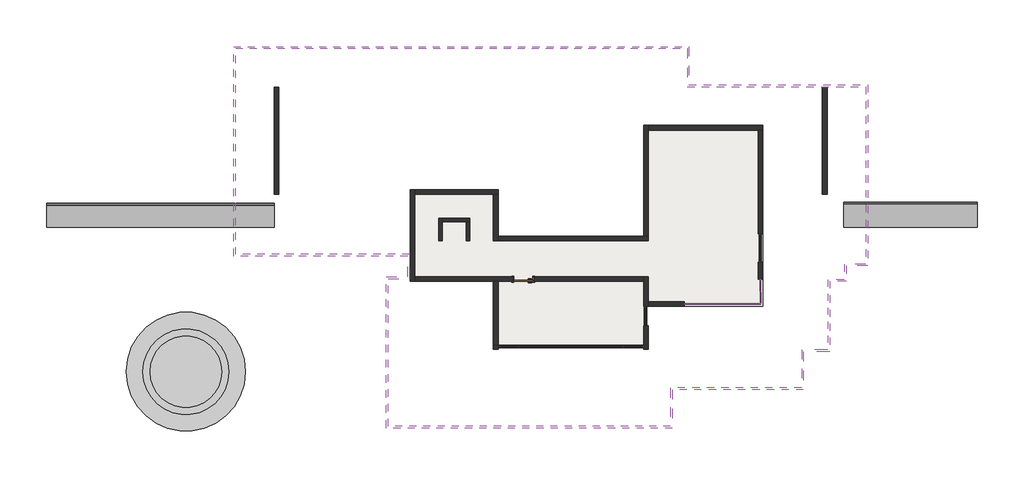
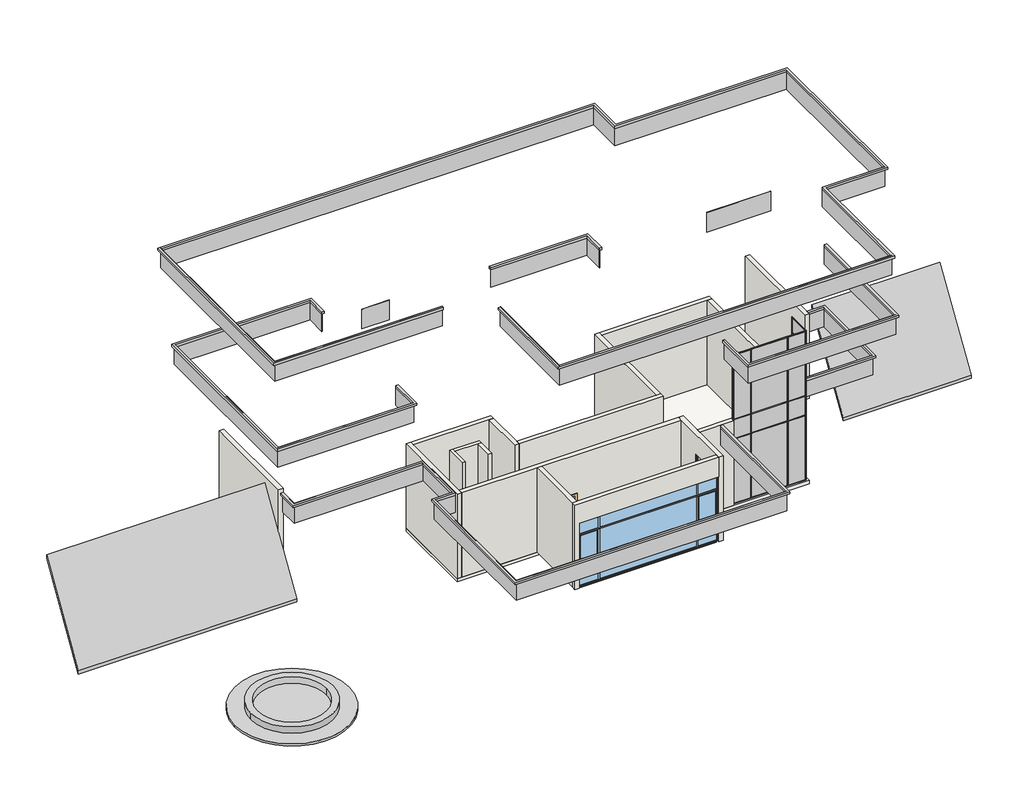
# One storey: 44 members, 17 walls, 16 plates, 4 proxies, 3 windows, 1 door, 1 slab.
"""IFC4 building model written with IfcOpenShell, lengths in millimetres."""

from ifc_helpers import new_model, si_unit, frame, origin, place, context, project, spatial, polyline, outline, extrude, faceted_brep, transform, mapped, element, save
from components import generic_models_e143e167, generic_models_15ee8ed9, generic_models_2893cd3e, generic_models_50eb2f88, m0921_482f5408, member_90ac73ab, member_87f0dc7e, member_97db42b5, member_9cf9c4d7, member_69e691f9, member_5c1dec61, member_050b8304, member_a1c97f35, member_0acd70fe, member_002d80ed, member_364816fe, member_2ac2b3c5, member_9c23d585, member_4cd86211, plate_54aeb3eb, plate_5ff895a2, plate_2453c80b, plate_7ff01385, plate_ce25694f, plate_528bf638, plate_018ef02b, plate_538d52de, plate_7eeac649, plate_8182eb90, plate_c530ab51, plate_f8d70057, c0830_0c11c58e, c1230_67e573e4, c6130_3f99a6ba

model = new_model("IFC4")

# Units and contexts
model_context = context("Model", 3, world=origin())
ifc_project = project(units=[si_unit("LENGTHUNIT", "METRE", prefix="MILLI")], contexts=[model_context])

# Site, building, storey
site = spatial("IfcSite", under=ifc_project)
building = spatial("IfcBuilding", under=site)
storey = spatial("IfcBuildingStorey", under=building, Name="负一层", Elevation=-3900.0)

# Proxies
placement = place(None, origin())
generic_models_shape = generic_models_e143e167(model_context)
element("IfcBuildingElementProxy", 1, Name="常规模型 1 : 常规模型 1", ObjectType="常规模型 1 : 常规模型 1", at=placement, inside=storey, context=model_context, shape_type="MappedRepresentation", body=[
    mapped(generic_models_shape, transform((0.0, 0.0, 0.0), x_axis=(1.0, 0.0, 0.0), y_axis=(0.0, 1.0, 0.0), z_axis=(0.0, 0.0, 1.0))),
])
generic_models_2_shape = generic_models_15ee8ed9(model_context)
element("IfcBuildingElementProxy", 2, Name="常规模型 2 : 常规模型 1", ObjectType="常规模型 2 : 常规模型 1", at=placement, inside=storey, context=model_context, shape_type="MappedRepresentation", body=[
    mapped(generic_models_2_shape, transform((0.0, 0.0, 0.0), x_axis=(1.0, 0.0, 0.0), y_axis=(0.0, 1.0, 0.0), z_axis=(0.0, 0.0, 1.0))),
])
generic_models_3_shape = generic_models_2893cd3e(model_context)
element("IfcBuildingElementProxy", 3, Name="景观水池 : 景观水池", ObjectType="景观水池 : 景观水池", at=placement, inside=storey, context=model_context, shape_type="MappedRepresentation", body=[
    mapped(generic_models_3_shape, transform((0.0, 0.0, 0.0), x_axis=(1.0, 0.0, 0.0), y_axis=(0.0, 1.0, 0.0), z_axis=(0.0, 0.0, 1.0))),
])
generic_models_4_shape = generic_models_50eb2f88(model_context)
element("IfcBuildingElementProxy", 4, Name="常规模型 3 : 常规模型 3", ObjectType="常规模型 3 : 常规模型 3", at=placement, inside=storey, context=model_context, shape_type="MappedRepresentation", body=[
    mapped(generic_models_4_shape, transform((0.0, 0.0, 0.0), x_axis=(1.0, 0.0, 0.0), y_axis=(0.0, 1.0, 0.0), z_axis=(0.0, 0.0, 1.0))),
])

# Door
m0921_shape = m0921_482f5408(model_context)
element("IfcDoor", 5, ObjectType="单嵌板木门 1 : M0921", at=placement, inside=storey, context=model_context, shape_type="MappedRepresentation", body=[
    mapped(m0921_shape, transform((2359.0524305, -6971.4172231, -3900.0), x_axis=(-1.0, 0.0, 0.0), y_axis=(0.0, -1.0, 0.0), z_axis=(0.0, 0.0, 1.0))),
])

# Members
member_shape = member_90ac73ab(model_context)
element("IfcMember", 6, ObjectType="矩形竖梃 : 30mm 正方形", at=placement, inside=storey, context=model_context, shape_type="MappedRepresentation", body=[
    mapped(member_shape, transform((12279.0524305, -8021.4172231, 3000.0), x_axis=(0.0, 0.0, 1.0), y_axis=(0.0, -1.0, 0.0), z_axis=(1.0, 0.0, 0.0))),
])
element("IfcMember", 7, ObjectType="矩形竖梃 : 30mm 正方形", at=placement, inside=storey, context=model_context, shape_type="MappedRepresentation", body=[
    mapped(member_shape, transform((9894.0524305, -8021.4172231, 3000.0), x_axis=(0.0, 0.0, 1.0), y_axis=(0.0, -1.0, 0.0), z_axis=(1.0, 0.0, 0.0))),
])
member_2_shape = member_87f0dc7e(model_context)
element("IfcMember", 8, ObjectType="矩形竖梃 : 30mm 正方形", at=placement, inside=storey, context=model_context, shape_type="MappedRepresentation", body=[
    mapped(member_2_shape, transform((11494.0524305, -8021.4172231, 3000.0), x_axis=(0.0, 0.0, 1.0), y_axis=(0.0, -1.0, 0.0), z_axis=(1.0, 0.0, 0.0))),
])
element("IfcMember", 9, ObjectType="矩形竖梃 : 30mm 正方形", at=placement, inside=storey, context=model_context, shape_type="MappedRepresentation", body=[
    mapped(member_shape, transform((9139.0524305, -8021.4172231, -3900.0), x_axis=(0.0, 0.0, -1.0), y_axis=(0.0, -1.0, 0.0), z_axis=(-1.0, 0.0, 0.0))),
])
element("IfcMember", 10, ObjectType="矩形竖梃 : 30mm 正方形", at=placement, inside=storey, context=model_context, shape_type="MappedRepresentation", body=[
    mapped(member_shape, transform((11524.0524305, -8021.4172231, -3900.0), x_axis=(0.0, 0.0, -1.0), y_axis=(0.0, -1.0, 0.0), z_axis=(-1.0, 0.0, 0.0))),
])
element("IfcMember", 11, ObjectType="矩形竖梃 : 30mm 正方形", at=placement, inside=storey, context=model_context, shape_type="MappedRepresentation", body=[
    mapped(member_2_shape, transform((9924.0524305, -8021.4172231, -3900.0), x_axis=(0.0, 0.0, -1.0), y_axis=(0.0, -1.0, 0.0), z_axis=(-1.0, 0.0, 0.0))),
])
member_3_shape = member_97db42b5(model_context)
element("IfcMember", 12, ObjectType="矩形竖梃 : 30mm 正方形", at=placement, inside=storey, context=model_context, shape_type="MappedRepresentation", body=[
    mapped(member_3_shape, transform((9894.0524305, -8021.4172231, -900.0), x_axis=(0.0, 0.0, 1.0), y_axis=(0.0, -1.0, 0.0), z_axis=(1.0, 0.0, 0.0))),
])
element("IfcMember", 13, ObjectType="矩形竖梃 : 30mm 正方形", at=placement, inside=storey, context=model_context, shape_type="MappedRepresentation", body=[
    mapped(member_3_shape, transform((9894.0524305, -8021.4172231, 0.0), x_axis=(0.0, 0.0, 1.0), y_axis=(0.0, -1.0, 0.0), z_axis=(1.0, 0.0, 0.0))),
])
element("IfcMember", 14, ObjectType="矩形竖梃 : 30mm 正方形", at=placement, inside=storey, context=model_context, shape_type="MappedRepresentation", body=[
    mapped(member_3_shape, transform((9894.0524305, -8021.4172231, 2300.0), x_axis=(0.0, 0.0, 1.0), y_axis=(0.0, -1.0, 0.0), z_axis=(1.0, 0.0, 0.0))),
])
element("IfcMember", 15, ObjectType="矩形竖梃 : 30mm 正方形", at=placement, inside=storey, context=model_context, shape_type="MappedRepresentation", body=[
    mapped(member_3_shape, transform((12279.0524305, -8021.4172231, -900.0), x_axis=(0.0, 0.0, 1.0), y_axis=(0.0, -1.0, 0.0), z_axis=(1.0, 0.0, 0.0))),
])
element("IfcMember", 16, ObjectType="矩形竖梃 : 30mm 正方形", at=placement, inside=storey, context=model_context, shape_type="MappedRepresentation", body=[
    mapped(member_3_shape, transform((12279.0524305, -8021.4172231, 0.0), x_axis=(0.0, 0.0, 1.0), y_axis=(0.0, -1.0, 0.0), z_axis=(1.0, 0.0, 0.0))),
])
element("IfcMember", 17, ObjectType="矩形竖梃 : 30mm 正方形", at=placement, inside=storey, context=model_context, shape_type="MappedRepresentation", body=[
    mapped(member_3_shape, transform((12279.0524305, -8021.4172231, 2300.0), x_axis=(0.0, 0.0, 1.0), y_axis=(0.0, -1.0, 0.0), z_axis=(1.0, 0.0, 0.0))),
])
member_4_shape = member_9cf9c4d7(model_context)
element("IfcMember", 18, ObjectType="矩形竖梃 : 30mm 正方形", at=placement, inside=storey, context=model_context, shape_type="MappedRepresentation", body=[
    mapped(member_4_shape, transform((11494.0524305, -8021.4172231, -900.0), x_axis=(0.0, 0.0, 1.0), y_axis=(0.0, -1.0, 0.0), z_axis=(1.0, 0.0, 0.0))),
])
element("IfcMember", 19, ObjectType="矩形竖梃 : 30mm 正方形", at=placement, inside=storey, context=model_context, shape_type="MappedRepresentation", body=[
    mapped(member_4_shape, transform((11494.0524305, -8021.4172231, 0.0), x_axis=(0.0, 0.0, 1.0), y_axis=(0.0, -1.0, 0.0), z_axis=(1.0, 0.0, 0.0))),
])
element("IfcMember", 20, ObjectType="矩形竖梃 : 30mm 正方形", at=placement, inside=storey, context=model_context, shape_type="MappedRepresentation", body=[
    mapped(member_4_shape, transform((11494.0524305, -8021.4172231, 2300.0), x_axis=(0.0, 0.0, 1.0), y_axis=(0.0, -1.0, 0.0), z_axis=(1.0, 0.0, 0.0))),
])
member_5_shape = member_69e691f9(model_context)
element("IfcMember", 21, ObjectType="矩形竖梃 : 30mm 正方形", at=placement, inside=storey, context=model_context, shape_type="MappedRepresentation", body=[
    mapped(member_5_shape, transform((9909.0524305, -8021.4172231, -3900.0), x_axis=(1.0, 0.0, 0.0), y_axis=(0.0, -1.0, 0.0), z_axis=(0.0, 0.0, -1.0))),
])
element("IfcMember", 22, ObjectType="矩形竖梃 : 30mm 正方形", at=placement, inside=storey, context=model_context, shape_type="MappedRepresentation", body=[
    mapped(member_5_shape, transform((11509.0524305, -8021.4172231, -3900.0), x_axis=(1.0, 0.0, 0.0), y_axis=(0.0, -1.0, 0.0), z_axis=(0.0, 0.0, -1.0))),
])
member_6_shape = member_5c1dec61(model_context)
element("IfcMember", 23, ObjectType="矩形竖梃 : 30mm 正方形", at=placement, inside=storey, context=model_context, shape_type="MappedRepresentation", body=[
    mapped(member_6_shape, transform((9909.0524305, -8021.4172231, -900.0), x_axis=(1.0, 0.0, 0.0), y_axis=(0.0, -1.0, 0.0), z_axis=(0.0, 0.0, -1.0))),
])
element("IfcMember", 24, ObjectType="矩形竖梃 : 30mm 正方形", at=placement, inside=storey, context=model_context, shape_type="MappedRepresentation", body=[
    mapped(member_6_shape, transform((11509.0524305, -8021.4172231, -900.0), x_axis=(1.0, 0.0, 0.0), y_axis=(0.0, -1.0, 0.0), z_axis=(0.0, 0.0, -1.0))),
])
member_7_shape = member_050b8304(model_context)
element("IfcMember", 25, ObjectType="矩形竖梃 : 30mm 正方形", at=placement, inside=storey, context=model_context, shape_type="MappedRepresentation", body=[
    mapped(member_7_shape, transform((9909.0524305, -8021.4172231, 0.0), x_axis=(1.0, 0.0, 0.0), y_axis=(0.0, -1.0, 0.0), z_axis=(0.0, 0.0, -1.0))),
])
element("IfcMember", 26, ObjectType="矩形竖梃 : 30mm 正方形", at=placement, inside=storey, context=model_context, shape_type="MappedRepresentation", body=[
    mapped(member_7_shape, transform((11509.0524305, -8021.4172231, 0.0), x_axis=(1.0, 0.0, 0.0), y_axis=(0.0, -1.0, 0.0), z_axis=(0.0, 0.0, -1.0))),
])
member_8_shape = member_a1c97f35(model_context)
element("IfcMember", 27, ObjectType="矩形竖梃 : 30mm 正方形", at=placement, inside=storey, context=model_context, shape_type="MappedRepresentation", body=[
    mapped(member_8_shape, transform((9909.0524305, -8021.4172231, 2300.0), x_axis=(1.0, 0.0, 0.0), y_axis=(0.0, -1.0, 0.0), z_axis=(0.0, 0.0, -1.0))),
])
element("IfcMember", 28, ObjectType="矩形竖梃 : 30mm 正方形", at=placement, inside=storey, context=model_context, shape_type="MappedRepresentation", body=[
    mapped(member_8_shape, transform((11509.0524305, -8021.4172231, 2300.0), x_axis=(1.0, 0.0, 0.0), y_axis=(0.0, -1.0, 0.0), z_axis=(0.0, 0.0, -1.0))),
])
member_9_shape = member_0acd70fe(model_context)
element("IfcMember", 29, ObjectType="矩形竖梃 : 30mm 正方形", at=placement, inside=storey, context=model_context, shape_type="MappedRepresentation", body=[
    mapped(member_9_shape, transform((12309.0524305, -8021.4172231, -3900.0), x_axis=(1.0, 0.0, 0.0), y_axis=(0.0, -1.0, 0.0), z_axis=(0.0, 0.0, -1.0))),
])
element("IfcMember", 30, ObjectType="矩形竖梃 : 30mm 正方形", at=placement, inside=storey, context=model_context, shape_type="MappedRepresentation", body=[
    mapped(member_9_shape, transform((12309.0524305, -6971.4172231, -3900.0), x_axis=(0.0, 1.0, 0.0), y_axis=(1.0, 0.0, 0.0), z_axis=(0.0, 0.0, -1.0))),
])
member_10_shape = member_002d80ed(model_context)
element("IfcMember", 31, ObjectType="矩形竖梃 : 30mm 正方形", at=placement, inside=storey, context=model_context, shape_type="MappedRepresentation", body=[
    mapped(member_10_shape, transform((12309.0524305, -8021.4172231, -900.0), x_axis=(1.0, 0.0, 0.0), y_axis=(0.0, -1.0, 0.0), z_axis=(0.0, 0.0, -1.0))),
])
element("IfcMember", 32, ObjectType="矩形竖梃 : 30mm 正方形", at=placement, inside=storey, context=model_context, shape_type="MappedRepresentation", body=[
    mapped(member_10_shape, transform((12309.0524305, -6971.4172231, -900.0), x_axis=(0.0, 1.0, 0.0), y_axis=(1.0, 0.0, 0.0), z_axis=(0.0, 0.0, -1.0))),
])
member_11_shape = member_364816fe(model_context)
element("IfcMember", 33, ObjectType="矩形竖梃 : 30mm 正方形", at=placement, inside=storey, context=model_context, shape_type="MappedRepresentation", body=[
    mapped(member_11_shape, transform((12309.0524305, -8021.4172231, 0.0), x_axis=(1.0, 0.0, 0.0), y_axis=(0.0, -1.0, 0.0), z_axis=(0.0, 0.0, -1.0))),
])
element("IfcMember", 34, ObjectType="矩形竖梃 : 30mm 正方形", at=placement, inside=storey, context=model_context, shape_type="MappedRepresentation", body=[
    mapped(member_11_shape, transform((12309.0524305, -6971.4172231, 0.0), x_axis=(0.0, 1.0, 0.0), y_axis=(1.0, 0.0, 0.0), z_axis=(0.0, 0.0, -1.0))),
])
member_12_shape = member_2ac2b3c5(model_context)
element("IfcMember", 35, ObjectType="矩形竖梃 : 30mm 正方形", at=placement, inside=storey, context=model_context, shape_type="MappedRepresentation", body=[
    mapped(member_12_shape, transform((12309.0524305, -8021.4172231, 2300.0), x_axis=(1.0, 0.0, 0.0), y_axis=(0.0, -1.0, 0.0), z_axis=(0.0, 0.0, -1.0))),
])
element("IfcMember", 36, ObjectType="矩形竖梃 : 30mm 正方形", at=placement, inside=storey, context=model_context, shape_type="MappedRepresentation", body=[
    mapped(member_12_shape, transform((12309.0524305, -6971.4172231, 2300.0), x_axis=(0.0, 1.0, 0.0), y_axis=(1.0, 0.0, 0.0), z_axis=(0.0, 0.0, -1.0))),
])
element("IfcMember", 37, ObjectType="矩形竖梃 : 30mm 正方形", at=placement, inside=storey, context=model_context, shape_type="MappedRepresentation", body=[
    mapped(member_12_shape, transform((9109.0524305, -8021.4172231, 3000.0), x_axis=(-1.0, 0.0, 0.0), y_axis=(0.0, -1.0, 0.0), z_axis=(0.0, 0.0, 1.0))),
])
element("IfcMember", 38, ObjectType="矩形竖梃 : 30mm 正方形", at=placement, inside=storey, context=model_context, shape_type="MappedRepresentation", body=[
    mapped(member_12_shape, transform((12309.0524305, -8021.4172231, 3000.0), x_axis=(0.0, -1.0, 0.0), y_axis=(1.0, 0.0, 0.0), z_axis=(0.0, 0.0, 1.0))),
])
element("IfcMember", 39, ObjectType="矩形竖梃 : 30mm 正方形", at=placement, inside=storey, context=model_context, shape_type="MappedRepresentation", body=[
    mapped(member_9_shape, transform((9109.0524305, -8021.4172231, -900.0), x_axis=(-1.0, 0.0, 0.0), y_axis=(0.0, -1.0, 0.0), z_axis=(0.0, 0.0, 1.0))),
])
element("IfcMember", 40, ObjectType="矩形竖梃 : 30mm 正方形", at=placement, inside=storey, context=model_context, shape_type="MappedRepresentation", body=[
    mapped(member_9_shape, transform((12309.0524305, -8021.4172231, -900.0), x_axis=(0.0, -1.0, 0.0), y_axis=(1.0, 0.0, 0.0), z_axis=(0.0, 0.0, 1.0))),
])
element("IfcMember", 41, ObjectType="矩形竖梃 : 30mm 正方形", at=placement, inside=storey, context=model_context, shape_type="MappedRepresentation", body=[
    mapped(member_10_shape, transform((9109.0524305, -8021.4172231, 0.0), x_axis=(-1.0, 0.0, 0.0), y_axis=(0.0, -1.0, 0.0), z_axis=(0.0, 0.0, 1.0))),
])
element("IfcMember", 42, ObjectType="矩形竖梃 : 30mm 正方形", at=placement, inside=storey, context=model_context, shape_type="MappedRepresentation", body=[
    mapped(member_10_shape, transform((12309.0524305, -8021.4172231, 0.0), x_axis=(0.0, -1.0, 0.0), y_axis=(1.0, 0.0, 0.0), z_axis=(0.0, 0.0, 1.0))),
])
element("IfcMember", 43, ObjectType="矩形竖梃 : 30mm 正方形", at=placement, inside=storey, context=model_context, shape_type="MappedRepresentation", body=[
    mapped(member_11_shape, transform((9109.0524305, -8021.4172231, 2300.0), x_axis=(-1.0, 0.0, 0.0), y_axis=(0.0, -1.0, 0.0), z_axis=(0.0, 0.0, 1.0))),
])
element("IfcMember", 44, ObjectType="矩形竖梃 : 30mm 正方形", at=placement, inside=storey, context=model_context, shape_type="MappedRepresentation", body=[
    mapped(member_11_shape, transform((12309.0524305, -8021.4172231, 2300.0), x_axis=(0.0, -1.0, 0.0), y_axis=(1.0, 0.0, 0.0), z_axis=(0.0, 0.0, 1.0))),
])
member_13_shape = member_9c23d585(model_context)
element("IfcMember", 45, ObjectType="矩形竖梃 : 30mm 正方形", at=placement, inside=storey, context=model_context, shape_type="MappedRepresentation", body=[
    mapped(member_13_shape, transform((12309.0524305, -7001.4172231, 3000.0), x_axis=(0.0, 0.0, 1.0), y_axis=(1.0, 0.0, 0.0), z_axis=(0.0, 1.0, 0.0))),
])
element("IfcMember", 46, ObjectType="矩形竖梃 : 30mm 正方形", at=placement, inside=storey, context=model_context, shape_type="MappedRepresentation", body=[
    mapped(member_13_shape, transform((12309.0524305, -7991.4172231, -3900.0), x_axis=(0.0, 0.0, -1.0), y_axis=(1.0, 0.0, 0.0), z_axis=(0.0, -1.0, 0.0))),
])
member_14_shape = member_4cd86211(model_context)
element("IfcMember", 47, ObjectType="矩形竖梃 : 30mm 正方形", at=placement, inside=storey, context=model_context, shape_type="MappedRepresentation", body=[
    mapped(member_14_shape, transform((12309.0524305, -7001.4172231, -900.0), x_axis=(0.0, 0.0, 1.0), y_axis=(1.0, 0.0, 0.0), z_axis=(0.0, 1.0, 0.0))),
])
element("IfcMember", 48, ObjectType="矩形竖梃 : 30mm 正方形", at=placement, inside=storey, context=model_context, shape_type="MappedRepresentation", body=[
    mapped(member_14_shape, transform((12309.0524305, -7001.4172231, 0.0), x_axis=(0.0, 0.0, 1.0), y_axis=(1.0, 0.0, 0.0), z_axis=(0.0, 1.0, 0.0))),
])
element("IfcMember", 49, ObjectType="矩形竖梃 : 30mm 正方形", at=placement, inside=storey, context=model_context, shape_type="MappedRepresentation", body=[
    mapped(member_14_shape, transform((12309.0524305, -7001.4172231, 2300.0), x_axis=(0.0, 0.0, 1.0), y_axis=(1.0, 0.0, 0.0), z_axis=(0.0, 1.0, 0.0))),
])

# Plates
plate_shape = plate_54aeb3eb(model_context)
element("IfcPlate", 50, ObjectType="系统嵌板 : 玻璃", at=placement, inside=storey, context=model_context, shape_type="MappedRepresentation", body=[
    mapped(plate_shape, transform((9516.5524305, -8021.4172231, -3870.0), x_axis=(1.0, 0.0, 0.0), y_axis=(0.0, 1.0, 0.0), z_axis=(0.0, 0.0, 1.0))),
])
element("IfcPlate", 51, ObjectType="系统嵌板 : 玻璃", at=placement, inside=storey, context=model_context, shape_type="MappedRepresentation", body=[
    mapped(plate_shape, transform((11901.5524305, -8021.4172231, -3870.0), x_axis=(1.0, 0.0, 0.0), y_axis=(0.0, 1.0, 0.0), z_axis=(0.0, 0.0, 1.0))),
])
plate_2_shape = plate_5ff895a2(model_context)
element("IfcPlate", 52, ObjectType="系统嵌板 : 玻璃", at=placement, inside=storey, context=model_context, shape_type="MappedRepresentation", body=[
    mapped(plate_2_shape, transform((9516.5524305, -8021.4172231, -885.0), x_axis=(1.0, 0.0, 0.0), y_axis=(0.0, 1.0, 0.0), z_axis=(0.0, 0.0, 1.0))),
])
element("IfcPlate", 53, ObjectType="系统嵌板 : 玻璃", at=placement, inside=storey, context=model_context, shape_type="MappedRepresentation", body=[
    mapped(plate_2_shape, transform((11901.5524305, -8021.4172231, -885.0), x_axis=(1.0, 0.0, 0.0), y_axis=(0.0, 1.0, 0.0), z_axis=(0.0, 0.0, 1.0))),
])
plate_3_shape = plate_2453c80b(model_context)
element("IfcPlate", 54, ObjectType="系统嵌板 : 玻璃", at=placement, inside=storey, context=model_context, shape_type="MappedRepresentation", body=[
    mapped(plate_3_shape, transform((9516.5524305, -8021.4172231, 15.0), x_axis=(1.0, 0.0, 0.0), y_axis=(0.0, 1.0, 0.0), z_axis=(0.0, 0.0, 1.0))),
])
element("IfcPlate", 55, ObjectType="系统嵌板 : 玻璃", at=placement, inside=storey, context=model_context, shape_type="MappedRepresentation", body=[
    mapped(plate_3_shape, transform((11901.5524305, -8021.4172231, 15.0), x_axis=(1.0, 0.0, 0.0), y_axis=(0.0, 1.0, 0.0), z_axis=(0.0, 0.0, 1.0))),
])
plate_4_shape = plate_7ff01385(model_context)
element("IfcPlate", 56, ObjectType="系统嵌板 : 玻璃", at=placement, inside=storey, context=model_context, shape_type="MappedRepresentation", body=[
    mapped(plate_4_shape, transform((9516.5524305, -8021.4172231, 2315.0), x_axis=(1.0, 0.0, 0.0), y_axis=(0.0, 1.0, 0.0), z_axis=(0.0, 0.0, 1.0))),
])
element("IfcPlate", 57, ObjectType="系统嵌板 : 玻璃", at=placement, inside=storey, context=model_context, shape_type="MappedRepresentation", body=[
    mapped(plate_4_shape, transform((11901.5524305, -8021.4172231, 2315.0), x_axis=(1.0, 0.0, 0.0), y_axis=(0.0, 1.0, 0.0), z_axis=(0.0, 0.0, 1.0))),
])
plate_5_shape = plate_ce25694f(model_context)
element("IfcPlate", 58, ObjectType="系统嵌板 : 玻璃", at=placement, inside=storey, context=model_context, shape_type="MappedRepresentation", body=[
    mapped(plate_5_shape, transform((10709.0524305, -8021.4172231, -3870.0), x_axis=(1.0, 0.0, 0.0), y_axis=(0.0, 1.0, 0.0), z_axis=(0.0, 0.0, 1.0))),
])
plate_6_shape = plate_528bf638(model_context)
element("IfcPlate", 59, ObjectType="系统嵌板 : 玻璃", at=placement, inside=storey, context=model_context, shape_type="MappedRepresentation", body=[
    mapped(plate_6_shape, transform((10709.0524305, -8021.4172231, -885.0), x_axis=(1.0, 0.0, 0.0), y_axis=(0.0, 1.0, 0.0), z_axis=(0.0, 0.0, 1.0))),
])
plate_7_shape = plate_018ef02b(model_context)
element("IfcPlate", 60, ObjectType="系统嵌板 : 玻璃", at=placement, inside=storey, context=model_context, shape_type="MappedRepresentation", body=[
    mapped(plate_7_shape, transform((10709.0524305, -8021.4172231, 15.0), x_axis=(1.0, 0.0, 0.0), y_axis=(0.0, 1.0, 0.0), z_axis=(0.0, 0.0, 1.0))),
])
plate_8_shape = plate_538d52de(model_context)
element("IfcPlate", 61, ObjectType="系统嵌板 : 玻璃", at=placement, inside=storey, context=model_context, shape_type="MappedRepresentation", body=[
    mapped(plate_8_shape, transform((10709.0524305, -8021.4172231, 2315.0), x_axis=(1.0, 0.0, 0.0), y_axis=(0.0, 1.0, 0.0), z_axis=(0.0, 0.0, 1.0))),
])
plate_9_shape = plate_7eeac649(model_context)
element("IfcPlate", 62, ObjectType="系统嵌板 : 玻璃", at=placement, inside=storey, context=model_context, shape_type="MappedRepresentation", body=[
    mapped(plate_9_shape, transform((12309.0524305, -7496.4172231, -3870.0), x_axis=(0.0, 1.0, 0.0), y_axis=(-1.0, 0.0, 0.0), z_axis=(0.0, 0.0, 1.0))),
])
plate_10_shape = plate_8182eb90(model_context)
element("IfcPlate", 63, ObjectType="系统嵌板 : 玻璃", at=placement, inside=storey, context=model_context, shape_type="MappedRepresentation", body=[
    mapped(plate_10_shape, transform((12309.0524305, -7496.4172231, -885.0), x_axis=(0.0, 1.0, 0.0), y_axis=(-1.0, 0.0, 0.0), z_axis=(0.0, 0.0, 1.0))),
])
plate_11_shape = plate_c530ab51(model_context)
element("IfcPlate", 64, ObjectType="系统嵌板 : 玻璃", at=placement, inside=storey, context=model_context, shape_type="MappedRepresentation", body=[
    mapped(plate_11_shape, transform((12309.0524305, -7496.4172231, 15.0), x_axis=(0.0, 1.0, 0.0), y_axis=(-1.0, 0.0, 0.0), z_axis=(0.0, 0.0, 1.0))),
])
plate_12_shape = plate_f8d70057(model_context)
element("IfcPlate", 65, ObjectType="系统嵌板 : 玻璃", at=placement, inside=storey, context=model_context, shape_type="MappedRepresentation", body=[
    mapped(plate_12_shape, transform((12309.0524305, -7496.4172231, 2315.0), x_axis=(0.0, 1.0, 0.0), y_axis=(-1.0, 0.0, 0.0), z_axis=(0.0, 0.0, 1.0))),
])

# Slab
element("IfcSlab", 66, ObjectType="楼板", at=placement, inside=storey, context=model_context, shape_type="SweptSolid", body=[
    extrude(outline(polyline([(7409.0524305, -8121.4172231), (7409.0524305, -9721.4172231), (1309.0524305, -9721.4172231), (1309.0524305, -7071.4172231), (-2390.9475695, -7071.4172231), (-2390.9475695, -3221.4172231), (1309.0524305, -3221.4172231), (1309.0524305, -5171.4172231), (7409.0524305, -5171.4172231), (7409.0524305, -521.4172231), (12409.0524305, -521.4172231), (12409.0524305, -8121.4172231), (7409.0524305, -8121.4172231)])), frame((0.0, 0.0, -4050.0), z_axis=(0.0, 0.0, 1.0), x_axis=(1.0, 0.0, 0.0)), (0.0, 0.0, 1.0), 150.0),
])

# Walls
element("IfcWall", 67, ObjectType="外墙", at=placement, inside=storey, context=model_context, shape_type="SweptSolid", body=[
    extrude(outline(polyline([(-8090.9475695, -3421.4172231), (-8090.9475695, 1078.5827769), (-7890.9475695, 1078.5827769), (-7890.9475695, -3421.4172231), (-8090.9475695, -3421.4172231)])), frame((0.0, 0.0, -3900.0), z_axis=(0.0, 0.0, 1.0), x_axis=(1.0, 0.0, 0.0)), (0.0, 0.0, 1.0), 3900.0),
])
element("IfcWall", 68, ObjectType="外墙", at=placement, inside=storey, context=model_context, shape_type="SweptSolid", body=[
    extrude(outline(polyline([(14909.0524305, -3421.4172231), (14909.0524305, 1078.5827769), (15109.0524305, 1078.5827769), (15109.0524305, -3421.4172231), (14909.0524305, -3421.4172231)])), frame((0.0, 0.0, -3900.0), z_axis=(0.0, 0.0, 1.0), x_axis=(1.0, 0.0, 0.0)), (0.0, 0.0, 1.0), 3900.0),
])
element("IfcWall", 69, ObjectType="外墙", at=placement, inside=storey, context=model_context, shape_type="Brep", body=[
    faceted_brep([(-2190.9475695, -7071.4172231, -3900.0), (-2190.9475695, -6871.4172231, -3900.0), (-2190.9475695, -3421.4172231, -3900.0), (-2190.9475695, -3221.4172231, -3900.0), (-2190.9475695, -3221.4172231, 0.0), (-2190.9475695, -3421.4172231, 0.0), (-2190.9475695, -6871.4172231, 0.0), (-2190.9475695, -7071.4172231, 0.0), (-2390.9475695, -7071.4172231, -3900.0), (-2390.9475695, -7071.4172231, 0.0), (-2390.9475695, -3221.4172231, 0.0), (-2390.9475695, -3221.4172231, -3900.0)], [[[0, 1, 2, 3, 4, 5, 6, 7]], [[8, 9, 10, 11]], [[3, 2, 1, 0, 8, 11]], [[7, 6, 5, 4, 10, 9]], [[4, 3, 11, 10]], [[0, 7, 9, 8]]]),
])
element("IfcWall", 70, ObjectType="外墙", at=placement, inside=storey, context=model_context, shape_type="Brep", body=[
    faceted_brep([(-2190.9475695, -3421.4172231, -3900.0), (1109.0524305, -3421.4172231, -3900.0), (1309.0524305, -3421.4172231, -3900.0), (1309.0524305, -3421.4172231, 0.0), (1109.0524305, -3421.4172231, 0.0), (-2190.9475695, -3421.4172231, 0.0), (-2190.9475695, -3221.4172231, -3900.0), (-2190.9475695, -3221.4172231, 0.0), (1309.0524305, -3221.4172231, 0.0), (1309.0524305, -3221.4172231, -3900.0)], [[[0, 1, 2, 3, 4, 5]], [[6, 7, 8, 9]], [[2, 1, 0, 6, 9]], [[5, 4, 3, 8, 7]], [[0, 5, 7, 6]], [[3, 2, 9, 8]]]),
])
element("IfcWall", 71, ObjectType="外墙", at=placement, inside=storey, context=model_context, shape_type="Brep", body=[
    faceted_brep([(1109.0524305, -3421.4172231, -3900.0), (1109.0524305, -5371.4172231, -3900.0), (1109.0524305, -5371.4172231, 0.0), (1109.0524305, -3421.4172231, 0.0), (1309.0524305, -3421.4172231, -3900.0), (1309.0524305, -3421.4172231, 0.0), (1309.0524305, -5171.4172231, 0.0), (1309.0524305, -5371.4172231, 0.0), (1309.0524305, -5371.4172231, -3900.0), (1309.0524305, -5171.4172231, -3900.0)], [[[0, 1, 2, 3]], [[4, 5, 6, 7, 8, 9]], [[1, 0, 4, 9, 8]], [[3, 2, 7, 6, 5]], [[0, 3, 5, 4]], [[2, 1, 8, 7]]]),
])
element("IfcWall", 72, ObjectType="外墙", at=placement, inside=storey, context=model_context, shape_type="Brep", body=[
    faceted_brep([(1309.0524305, -5371.4172231, -3900.0), (7609.0524305, -5371.4172231, -3900.0), (7609.0524305, -5371.4172231, 0.0), (1309.0524305, -5371.4172231, 0.0), (1309.0524305, -5171.4172231, -3900.0), (1309.0524305, -5171.4172231, 0.0), (7409.0524305, -5171.4172231, 0.0), (7609.0524305, -5171.4172231, 0.0), (7609.0524305, -5171.4172231, -3900.0), (7409.0524305, -5171.4172231, -3900.0)], [[[0, 1, 2, 3]], [[4, 5, 6, 7, 8, 9]], [[1, 0, 4, 9, 8]], [[3, 2, 7, 6, 5]], [[0, 3, 5, 4]], [[2, 1, 8, 7]]]),
])
element("IfcWall", 73, ObjectType="外墙", at=placement, inside=storey, context=model_context, shape_type="Brep", body=[
    faceted_brep([(7609.0524305, -5171.4172231, -3900.0), (7609.0524305, -721.4172231, -3900.0), (7609.0524305, -521.4172231, -3900.0), (7609.0524305, -521.4172231, 0.0), (7609.0524305, -721.4172231, 0.0), (7609.0524305, -5171.4172231, 0.0), (7409.0524305, -5171.4172231, -3900.0), (7409.0524305, -5171.4172231, 0.0), (7409.0524305, -521.4172231, 0.0), (7409.0524305, -521.4172231, -3900.0)], [[[0, 1, 2, 3, 4, 5]], [[6, 7, 8, 9]], [[2, 1, 0, 6, 9]], [[5, 4, 3, 8, 7]], [[0, 5, 7, 6]], [[3, 2, 9, 8]]]),
])
element("IfcWall", 74, ObjectType="外墙", at=placement, inside=storey, context=model_context, shape_type="Brep", body=[
    faceted_brep([(7609.0524305, -721.4172231, -3900.0), (12209.0524305, -721.4172231, -3900.0), (12409.0524305, -721.4172231, -3900.0), (12409.0524305, -721.4172231, 0.0), (12209.0524305, -721.4172231, 0.0), (7609.0524305, -721.4172231, 0.0), (7609.0524305, -521.4172231, -3900.0), (7609.0524305, -521.4172231, 0.0), (12409.0524305, -521.4172231, 0.0), (12409.0524305, -521.4172231, -3900.0)], [[[0, 1, 2, 3, 4, 5]], [[6, 7, 8, 9]], [[2, 1, 0, 6, 9]], [[5, 4, 3, 8, 7]], [[0, 5, 7, 6]], [[3, 2, 9, 8]]]),
])
element("IfcWall", 75, ObjectType="外墙", at=placement, inside=storey, context=model_context, shape_type="SweptSolid", body=[
    extrude(outline(polyline([(-721.4172231, 0.0), (-721.4172231, -3900.0), (-5071.4172231, -3900.0), (-5071.4172231, -900.0), (-6271.4172231, -900.0), (-6271.4172231, -3900.0), (-6971.4172231, -3900.0), (-6971.4172231, 0.0), (-721.4172231, 0.0)])), frame((12209.0524305, 0.0, 0.0), z_axis=(1.0, 0.0, 0.0), x_axis=(0.0, 1.0, 0.0)), (0.0, 0.0, 1.0), 200.0),
])
element("IfcWall", 76, ObjectType="外墙", at=placement, inside=storey, context=model_context, shape_type="Brep", body=[
    faceted_brep([(7609.0524305, -7921.4172231, -3900.0), (7609.0524305, -7921.4172231, 0.0), (9109.0524305, -7921.4172231, 0.0), (9109.0524305, -7921.4172231, -3900.0), (7609.0524305, -8121.4172231, -3900.0), (9109.0524305, -8121.4172231, -3900.0), (9109.0524305, -8121.4172231, 0.0), (7609.0524305, -8121.4172231, 0.0), (7609.0524305, -8121.4172231, -900.0)], [[[0, 1, 2, 3]], [[4, 5, 6, 7, 8]], [[1, 0, 4, 8, 7]], [[0, 3, 5, 4]], [[2, 1, 7, 6]], [[3, 2, 6, 5]]]),
])
element("IfcWall", 77, ObjectType="外墙", at=placement, inside=storey, context=model_context, shape_type="Brep", body=[
    faceted_brep([(7409.0524305, -9921.4172231, 0.0), (7409.0524305, -9721.4172231, 0.0), (7409.0524305, -7071.4172231, 0.0), (7409.0524305, -6871.4172231, 0.0), (7409.0524305, -6871.4172231, -3900.0), (7409.0524305, -7071.4172231, -3900.0), (7409.0524305, -8121.4172231, -3900.0), (7409.0524305, -8121.4172231, -900.0), (7409.0524305, -8921.4172231, -900.0), (7409.0524305, -8921.4172231, -3900.0), (7409.0524305, -9921.4172231, -3900.0), (7409.0524305, -9921.4172231, -900.0), (7609.0524305, -6871.4172231, 0.0), (7609.0524305, -7921.4172231, 0.0), (7609.0524305, -8121.4172231, 0.0), (7609.0524305, -9921.4172231, 0.0), (7609.0524305, -9921.4172231, -3900.0), (7609.0524305, -8921.4172231, -3900.0), (7609.0524305, -8921.4172231, -900.0), (7609.0524305, -8121.4172231, -900.0), (7609.0524305, -8121.4172231, -3900.0), (7609.0524305, -7921.4172231, -3900.0), (7609.0524305, -6871.4172231, -3900.0)], [[[0, 1, 2, 3, 4, 5, 6, 7, 8, 9, 10, 11]], [[12, 13, 14, 15, 16, 17, 18, 19, 20, 21, 22]], [[16, 10, 9, 17]], [[4, 22, 21, 20, 6, 5]], [[3, 2, 1, 0, 15, 14, 13, 12]], [[0, 11, 10, 16, 15]], [[4, 3, 12, 22]], [[19, 7, 6, 20]], [[7, 19, 18, 8]], [[8, 18, 17, 9]]]),
])
element("IfcWall", 78, ObjectType="外墙", at=placement, inside=storey, context=model_context, shape_type="Brep", body=[
    faceted_brep([(1109.0524305, -9721.4172231, 0.0), (1309.0524305, -9721.4172231, 0.0), (7409.0524305, -9721.4172231, 0.0), (7409.0524305, -9721.4172231, -900.0), (1309.0524305, -9721.4172231, -900.0), (1309.0524305, -9721.4172231, -3900.0), (1109.0524305, -9721.4172231, -3900.0), (7409.0524305, -9921.4172231, 0.0), (1109.0524305, -9921.4172231, 0.0), (1109.0524305, -9921.4172231, -3900.0), (1309.0524305, -9921.4172231, -3900.0), (1309.0524305, -9921.4172231, -900.0), (7409.0524305, -9921.4172231, -900.0)], [[[0, 1, 2, 3, 4, 5, 6]], [[7, 8, 9, 10, 11, 12]], [[9, 6, 5, 10]], [[2, 1, 0, 8, 7]], [[2, 7, 12, 3]], [[0, 6, 9, 8]], [[11, 4, 3, 12]], [[4, 11, 10, 5]]]),
])
element("IfcWall", 79, ObjectType="外墙", at=placement, inside=storey, context=model_context, shape_type="SweptSolid", body=[
    extrude(outline(polyline([(1309.0524305, -7071.4172231), (1309.0524305, -9721.4172231), (1109.0524305, -9721.4172231), (1109.0524305, -7071.4172231), (1309.0524305, -7071.4172231)])), frame((0.0, 0.0, -3900.0), z_axis=(0.0, 0.0, 1.0), x_axis=(1.0, 0.0, 0.0)), (0.0, 0.0, 1.0), 3900.0),
])
element("IfcWall", 80, ObjectType="外墙", at=placement, inside=storey, context=model_context, shape_type="Brep", body=[
    faceted_brep([(-2190.9475695, -6871.4172231, 0.0), (7409.0524305, -6871.4172231, 0.0), (7409.0524305, -6871.4172231, -3900.0), (2809.0524305, -6871.4172231, -3900.0), (2809.0524305, -6871.4172231, -1800.0), (1909.0524305, -6871.4172231, -1800.0), (1909.0524305, -6871.4172231, -3900.0), (-2190.9475695, -6871.4172231, -3900.0), (7409.0524305, -7071.4172231, 0.0), (1309.0524305, -7071.4172231, 0.0), (1109.0524305, -7071.4172231, 0.0), (-2190.9475695, -7071.4172231, 0.0), (-2190.9475695, -7071.4172231, -3900.0), (1109.0524305, -7071.4172231, -3900.0), (1309.0524305, -7071.4172231, -3900.0), (1909.0524305, -7071.4172231, -3900.0), (1909.0524305, -7071.4172231, -1800.0), (2809.0524305, -7071.4172231, -1800.0), (2809.0524305, -7071.4172231, -3900.0), (7409.0524305, -7071.4172231, -3900.0)], [[[0, 1, 2, 3, 4, 5, 6, 7]], [[8, 9, 10, 11, 12, 13, 14, 15, 16, 17, 18, 19]], [[12, 7, 6, 15, 14, 13]], [[2, 19, 18, 3]], [[1, 0, 11, 10, 9, 8]], [[0, 7, 12, 11]], [[2, 1, 8, 19]], [[5, 16, 15, 6]], [[16, 5, 4, 17]], [[17, 4, 3, 18]]]),
])
element("IfcWall", 81, ObjectType="内墙-楼梯间", at=placement, inside=storey, context=model_context, shape_type="Brep", body=[
    faceted_brep([(-1040.9475695, -5371.4172231, -3900.0), (-1040.9475695, -4571.4172231, -3900.0), (-1040.9475695, -4421.4172231, -3900.0), (-1040.9475695, -4421.4172231, 0.0), (-1040.9475695, -4571.4172231, 0.0), (-1040.9475695, -5371.4172231, 0.0), (-1190.9475695, -5371.4172231, -3900.0), (-1190.9475695, -5371.4172231, 0.0), (-1190.9475695, -4421.4172231, 0.0), (-1190.9475695, -4421.4172231, -3900.0)], [[[0, 1, 2, 3, 4, 5]], [[6, 7, 8, 9]], [[2, 1, 0, 6, 9]], [[5, 4, 3, 8, 7]], [[0, 5, 7, 6]], [[3, 2, 9, 8]]]),
])
element("IfcWall", 82, ObjectType="内墙-楼梯间", at=placement, inside=storey, context=model_context, shape_type="Brep", body=[
    faceted_brep([(-1040.9475695, -4571.4172231, -3900.0), (-40.9475695, -4571.4172231, -3900.0), (109.0524305, -4571.4172231, -3900.0), (109.0524305, -4571.4172231, 0.0), (-40.9475695, -4571.4172231, 0.0), (-1040.9475695, -4571.4172231, 0.0), (-1040.9475695, -4421.4172231, -3900.0), (-1040.9475695, -4421.4172231, 0.0), (109.0524305, -4421.4172231, 0.0), (109.0524305, -4421.4172231, -3900.0)], [[[0, 1, 2, 3, 4, 5]], [[6, 7, 8, 9]], [[2, 1, 0, 6, 9]], [[5, 4, 3, 8, 7]], [[0, 5, 7, 6]], [[3, 2, 9, 8]]]),
])
element("IfcWall", 83, ObjectType="内墙-楼梯间", at=placement, inside=storey, context=model_context, shape_type="SweptSolid", body=[
    extrude(outline(polyline([(-40.9475695, -5371.4172231), (-40.9475695, -4571.4172231), (109.0524305, -4571.4172231), (109.0524305, -5371.4172231), (-40.9475695, -5371.4172231)])), frame((0.0, 0.0, -3900.0), z_axis=(0.0, 0.0, 1.0), x_axis=(1.0, 0.0, 0.0)), (0.0, 0.0, 1.0), 3900.0),
])

# Windows
c0830_shape = c0830_0c11c58e(model_context)
element("IfcWindow", 84, ObjectType="组合窗 - 三层双列(平开+固定) : C0830", at=placement, inside=storey, context=model_context, shape_type="MappedRepresentation", body=[
    mapped(c0830_shape, transform((7509.0524305, -8521.4172231, -4200.0), x_axis=(0.0, -1.0, 0.0), y_axis=(1.0, 0.0, 0.0), z_axis=(0.0, 0.0, 1.0))),
])
c1230_shape = c1230_67e573e4(model_context)
element("IfcWindow", 85, ObjectType="双层单列 : C1230", at=placement, inside=storey, context=model_context, shape_type="MappedRepresentation", body=[
    mapped(c1230_shape, transform((12309.0524305, -5671.4172231, -4800.0), x_axis=(0.0, -1.0, 0.0), y_axis=(1.0, 0.0, 0.0), z_axis=(0.0, 0.0, 1.0))),
])
c6130_shape = c6130_3f99a6ba(model_context)
element("IfcWindow", 86, ObjectType="组合窗 - 三层三列(平开+固定) : C6130", at=placement, inside=storey, context=model_context, shape_type="MappedRepresentation", body=[
    mapped(c6130_shape, transform((4359.0524305, -9821.4172231, -4200.0), x_axis=(-1.0, 0.0, 0.0), y_axis=(0.0, -1.0, 0.0), z_axis=(0.0, 0.0, 1.0))),
])

save(model, "model.ifc")
